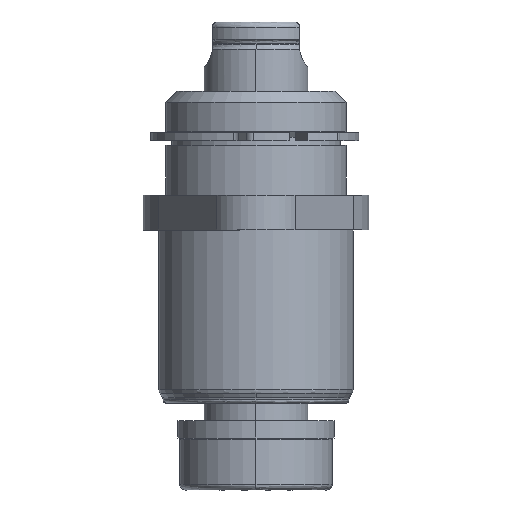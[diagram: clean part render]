
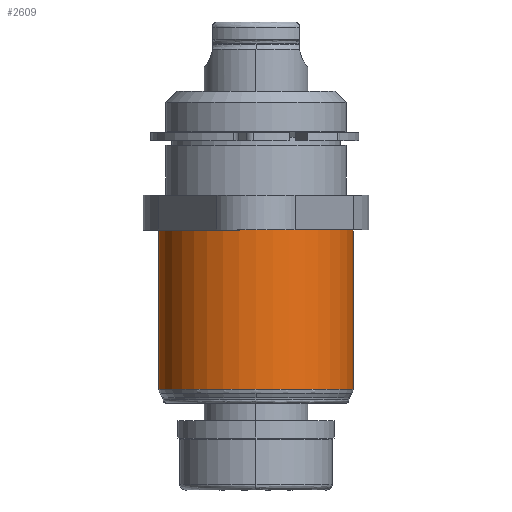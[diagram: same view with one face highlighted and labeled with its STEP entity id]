
A CAD part, left-side view. The second image highlights one B-rep face of the part: STEP entity #2609.
In plain terms, the highlighted cylindrical face has radius 17.775 mm (diameter 35.55 mm), a partial arc.
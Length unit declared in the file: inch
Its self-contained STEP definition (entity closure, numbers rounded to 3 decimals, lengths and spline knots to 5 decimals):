
#243 = ORIENTED_EDGE ( 'NONE', *, *, #2853, .T. ) ;
#287 = CARTESIAN_POINT ( 'NONE',  ( 0., -1.25, 0. ) ) ;
#361 = AXIS2_PLACEMENT_3D ( 'NONE', #3492, #2502, #1088 ) ;
#487 = ORIENTED_EDGE ( 'NONE', *, *, #2658, .T. ) ;
#851 = CIRCLE ( 'NONE', #2350, 0.6998 ) ;
#900 = FACE_OUTER_BOUND ( 'NONE', #4105, .T. ) ;
#938 = CARTESIAN_POINT ( 'NONE',  ( 0., 0., 0. ) ) ;
#972 = ORIENTED_EDGE ( 'NONE', *, *, #2537, .F. ) ;
#1043 = CARTESIAN_POINT ( 'NONE',  ( 0., 0., -0.6998 ) ) ;
#1067 = VECTOR ( 'NONE', #1742, 39.37008 ) ;
#1088 = DIRECTION ( 'NONE',  ( 0., 0., 1. ) ) ;
#1221 = CARTESIAN_POINT ( 'NONE',  ( 0., -1.14758, -0.6998 ) ) ;
#1304 = AXIS2_PLACEMENT_3D ( 'NONE', #287, #4430, #2043 ) ;
#1462 = VERTEX_POINT ( 'NONE', #1221 ) ;
#1617 = CYLINDRICAL_SURFACE ( 'NONE', #1304, 0.6998 ) ;
#1742 = DIRECTION ( 'NONE',  ( 0., 1., 0. ) ) ;
#1789 = VERTEX_POINT ( 'NONE', #2402 ) ;
#2006 = VECTOR ( 'NONE', #2353, 39.37008 ) ;
#2043 = DIRECTION ( 'NONE',  ( 0., 0., 1. ) ) ;
#2226 = LINE ( 'NONE', #3061, #1067 ) ;
#2300 = VERTEX_POINT ( 'NONE', #3993 ) ;
#2350 = AXIS2_PLACEMENT_3D ( 'NONE', #938, #4341, #2680 ) ;
#2353 = DIRECTION ( 'NONE',  ( 0., 1., 0. ) ) ;
#2387 = CIRCLE ( 'NONE', #361, 0.6998 ) ;
#2402 = CARTESIAN_POINT ( 'NONE',  ( 0., 0., 0.6998 ) ) ;
#2447 = LINE ( 'NONE', #2663, #2006 ) ;
#2477 = EDGE_CURVE ( 'NONE', #2714, #1789, #851, .T. ) ;
#2502 = DIRECTION ( 'NONE',  ( 0., 1., 0. ) ) ;
#2537 = EDGE_CURVE ( 'NONE', #2300, #1789, #2447, .T. ) ;
#2609 = ADVANCED_FACE ( 'NONE', ( #900 ), #1617, .T. ) ;
#2658 = EDGE_CURVE ( 'NONE', #2300, #1462, #2387, .T. ) ;
#2663 = CARTESIAN_POINT ( 'NONE',  ( 0., -1.25, 0.6998 ) ) ;
#2680 = DIRECTION ( 'NONE',  ( 0., 0., 1. ) ) ;
#2714 = VERTEX_POINT ( 'NONE', #1043 ) ;
#2853 = EDGE_CURVE ( 'NONE', #1462, #2714, #2226, .T. ) ;
#3061 = CARTESIAN_POINT ( 'NONE',  ( 0., -1.25, -0.6998 ) ) ;
#3328 = ORIENTED_EDGE ( 'NONE', *, *, #2477, .T. ) ;
#3492 = CARTESIAN_POINT ( 'NONE',  ( 0., -1.14758, 0. ) ) ;
#3993 = CARTESIAN_POINT ( 'NONE',  ( 0., -1.14758, 0.6998 ) ) ;
#4105 = EDGE_LOOP ( 'NONE', ( #487, #243, #3328, #972 ) ) ;
#4341 = DIRECTION ( 'NONE',  ( 0., -1., 0. ) ) ;
#4430 = DIRECTION ( 'NONE',  ( 0., 1., 0. ) ) ;
